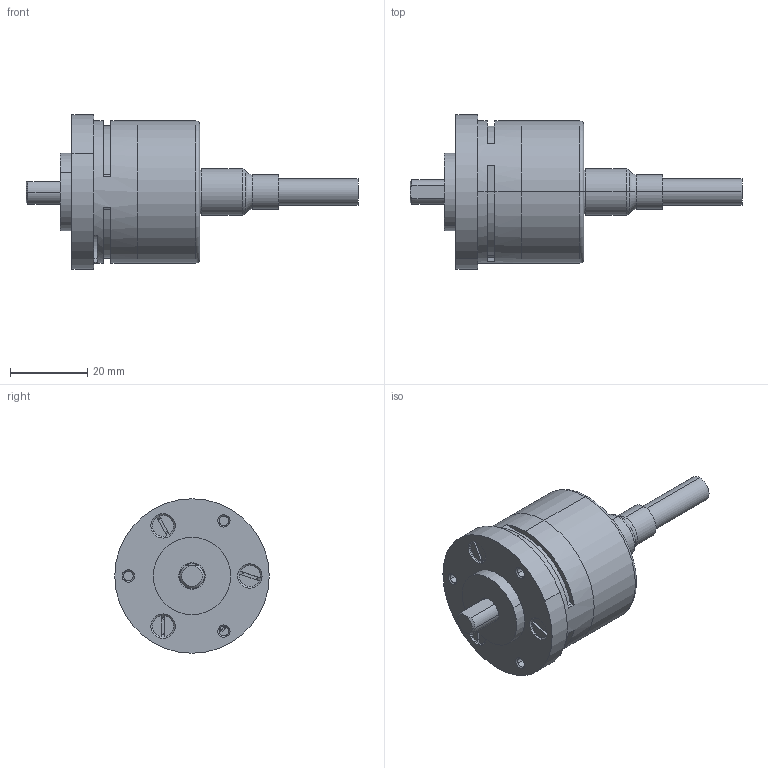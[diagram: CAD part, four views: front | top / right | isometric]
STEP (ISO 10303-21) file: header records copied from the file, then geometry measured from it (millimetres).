
FILE_DESCRIPTION (( 'STEP AP214' ), '1' );
FILE_NAME ('3700.A4X1.XXXX.STEP', '2008-11-25T08:38:41', ( 'admin' ), ( 'Fritz Kübler GmbH' ), 'SwSTEP 2.0', 'SolidWorks 2008', '' );
FILE_SCHEMA (( 'AUTOMOTIVE_DESIGN' ));
Length unit declared in the file: millimetre
Products named in the file (1): 3700.A4X1.XXXX
Bounding box: 86 x 40 x 40 mm (x, y, z)
Volume: 20927.5 mm3; surface area: 20428 mm2
Topology: 9 solids, 9 shells, 559 faces, 1327 edges, 802 vertices
Faces by surface type: cylinder 235, plane 138, torus 88, cone 46, bspline 27, sphere 25
Entity records: 23225 total; most frequent: CARTESIAN_POINT 4018, DIRECTION 2931, ORIENTED_EDGE 2608, EDGE_CURVE 1304, AXIS2_PLACEMENT_3D 1242, VERTEX_POINT 792, CIRCLE 709, EDGE_LOOP 608
